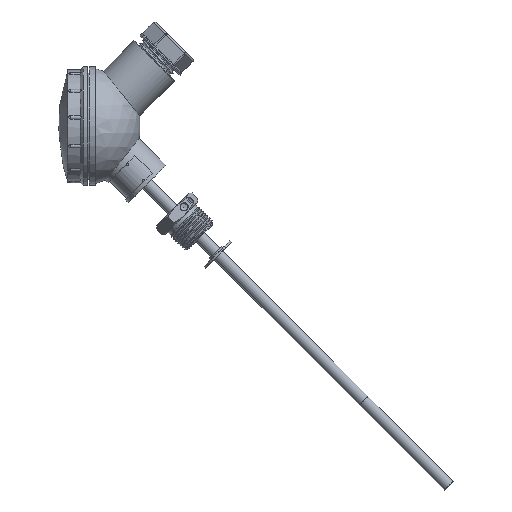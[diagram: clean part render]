
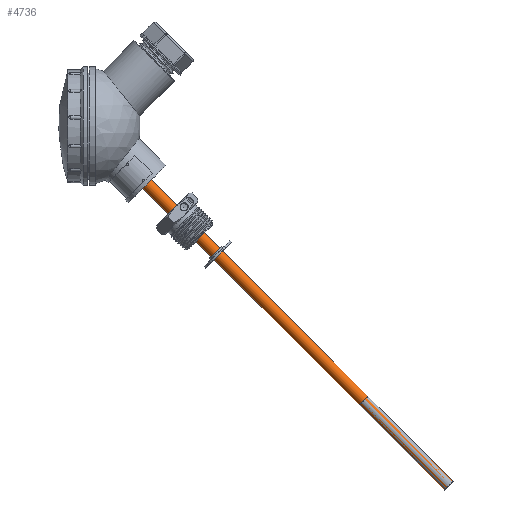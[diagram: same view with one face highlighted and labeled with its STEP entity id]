
A CAD part, left-side view. The second image highlights one B-rep face of the part: STEP entity #4736.
In plain terms, the highlighted cylindrical face has radius 3 mm (diameter 6 mm), a full revolution.
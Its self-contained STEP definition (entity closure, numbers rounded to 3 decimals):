
#4736=ADVANCED_FACE('',(#18032,#18034),#18036,.T.);
#18032=FACE_OUTER_BOUND('',#18033,.T.);
#18033=EDGE_LOOP('',(#20871));
#18034=FACE_OUTER_BOUND('',#18035,.T.);
#18035=EDGE_LOOP('',(#20872));
#18036=CYLINDRICAL_SURFACE('',#18037,3.);
#18037=AXIS2_PLACEMENT_3D('',#18038,#18039,#18040);
#18038=CARTESIAN_POINT('',(0.,0.,-91.));
#18039=DIRECTION('',(0.,0.,1.));
#18040=DIRECTION('',(1.,0.,0.));
#20871=ORIENTED_EDGE('',*,*,#22044,.F.);
#20872=ORIENTED_EDGE('',*,*,#22045,.T.);
#22044=EDGE_CURVE('',#23787,#23787,#23788,.T.);
#22045=EDGE_CURVE('',#23789,#23789,#23790,.T.);
#23787=VERTEX_POINT('',#85236);
#23788=CIRCLE('',#85237,3.);
#23789=VERTEX_POINT('',#85241);
#23790=CIRCLE('',#85242,3.);
#85236=CARTESIAN_POINT('',(3.,0.,120.8));
#85237=AXIS2_PLACEMENT_3D('',#85238,#85239,#85240);
#85238=CARTESIAN_POINT('',(0.,0.,120.8));
#85239=DIRECTION('',(0.,0.,1.));
#85240=DIRECTION('',(1.,0.,0.));
#85241=CARTESIAN_POINT('',(3.,0.,-91.));
#85242=AXIS2_PLACEMENT_3D('',#85243,#85244,#85245);
#85243=CARTESIAN_POINT('',(0.,0.,-91.));
#85244=DIRECTION('',(0.,0.,1.));
#85245=DIRECTION('',(1.,0.,0.));
